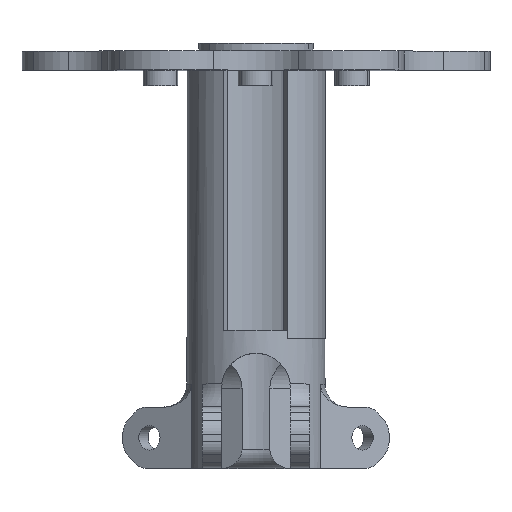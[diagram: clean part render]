
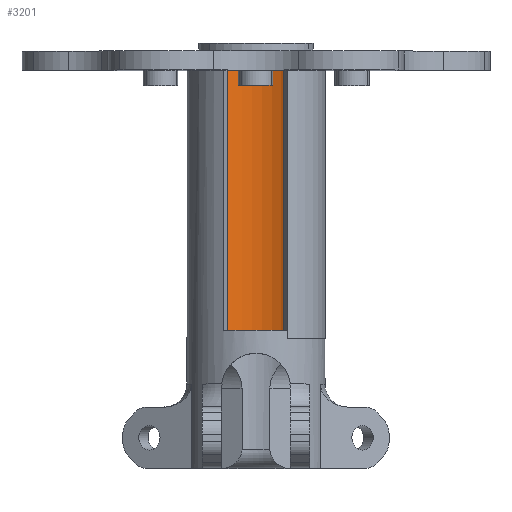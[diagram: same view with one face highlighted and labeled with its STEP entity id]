
A CAD part, top view. The second image highlights one B-rep face of the part: STEP entity #3201.
In plain terms, the highlighted cylindrical face has radius 16.003 mm (diameter 32.006 mm), a partial arc.
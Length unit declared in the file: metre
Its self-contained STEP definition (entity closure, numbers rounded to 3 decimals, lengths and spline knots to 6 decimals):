
#101=CIRCLE('',#3356,0.016003);
#206=CIRCLE('',#3536,0.016003);
#351=CYLINDRICAL_SURFACE('',#3535,0.016003);
#857=ORIENTED_EDGE('',*,*,#1619,.F.);
#858=ORIENTED_EDGE('',*,*,#1620,.T.);
#859=ORIENTED_EDGE('',*,*,#1369,.T.);
#860=ORIENTED_EDGE('',*,*,#1432,.T.);
#1369=EDGE_CURVE('',#1857,#1856,#2183,.T.);
#1432=EDGE_CURVE('',#1856,#1917,#101,.T.);
#1619=EDGE_CURVE('',#2030,#1917,#2278,.T.);
#1620=EDGE_CURVE('',#2030,#1857,#206,.F.);
#1856=VERTEX_POINT('',#4742);
#1857=VERTEX_POINT('',#4744);
#1917=VERTEX_POINT('',#4870);
#2030=VERTEX_POINT('',#5280);
#2183=LINE('',#4743,#2406);
#2278=LINE('',#5281,#2501);
#2406=VECTOR('',#3715,1.);
#2501=VECTOR('',#4264,1.);
#2732=EDGE_LOOP('',(#857,#858,#859,#860));
#2952=FACE_BOUND('',#2732,.T.);
#3201=ADVANCED_FACE('',(#2952),#351,.F.);
#3356=AXIS2_PLACEMENT_3D('',#4871,#3830,#3831);
#3535=AXIS2_PLACEMENT_3D('',#5282,#4265,#4266);
#3536=AXIS2_PLACEMENT_3D('',#5283,#4267,#4268);
#3715=DIRECTION('',(0.,1.,0.));
#3830=DIRECTION('',(0.,1.,0.));
#3831=DIRECTION('',(0.866,0.,0.5));
#4264=DIRECTION('',(0.,1.,0.));
#4265=DIRECTION('',(0.,1.,0.));
#4266=DIRECTION('',(-0.866,0.,-0.5));
#4267=DIRECTION('',(0.,1.,0.));
#4268=DIRECTION('',(0.,0.,1.));
#4742=CARTESIAN_POINT('',(0.001615,0.001224,-0.006309));
#4743=CARTESIAN_POINT('',(0.001615,-0.068776,-0.006309));
#4744=CARTESIAN_POINT('',(0.001615,-0.066576,-0.006309));
#4870=CARTESIAN_POINT('',(-0.015677,0.001224,-0.006513));
#4871=CARTESIAN_POINT('',(-0.00719,0.001224,0.007054));
#5280=CARTESIAN_POINT('',(-0.015677,-0.066576,-0.006513));
#5281=CARTESIAN_POINT('',(-0.015677,-0.068776,-0.006513));
#5282=CARTESIAN_POINT('',(-0.00719,-0.068776,0.007054));
#5283=CARTESIAN_POINT('',(-0.00719,-0.066576,0.007054));
